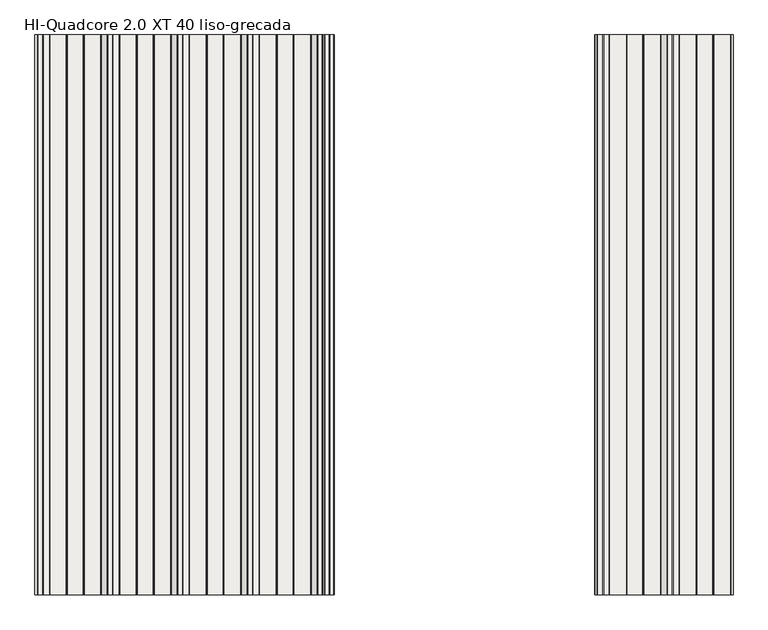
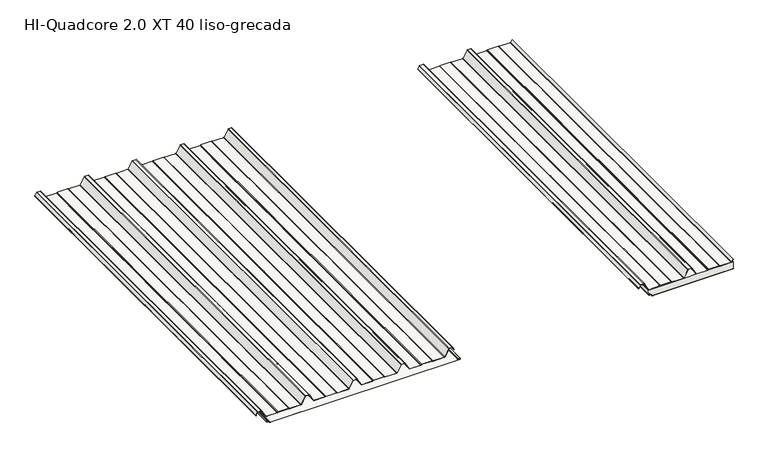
"""IFC4 building model written with IfcOpenShell, lengths in millimetres: slab geometry, HI_QuadCore2.0XT-XT DUAL : HI-Quadcore 2.0 XT 40 liso-grecada."""

from ifc_helpers import new_model, si_unit, point, frame, frame_2d, origin, place, context, project, spatial, polyline, circle_curve, trimmed, segment, composite_curve, outline, extrude, source, transform, mapped, element, save
from ifc_brep_helpers import plane_surface, cylinder_surface, revolved_surface, advanced_brep


def hi_quadcore_2_0_xt_40_liso_grecada_7d9000d5(model_context):
    return source(origin(), model_context, "Body", "SolidModel", [
        extrude(outline(composite_curve([segment(polyline([(78.1649405, 2138.5141429), (63.6579587, 2130.3539656)]), True, "CONTINUOUS"), segment(trimmed(circle_curve(frame_2d((63.0451321, 2131.443435)), 1.25), [point((63.6579587, 2130.3539656))], [point((62.689225, 2132.6416963))], False, "CARTESIAN"), True, "CONTINUOUS"), segment(polyline([(62.689225, 2132.6416963), (65.7359115, 2133.437141), (65.9380053, 2132.663088), (62.9074492, 2131.8718547)]), True, "CONTINUOUS"), segment(trimmed(circle_curve(frame_2d((63.0451321, 2131.443435)), 0.45), [point((62.9074492, 2131.8718547))], [point((63.2657497, 2131.051226))], True, "CARTESIAN"), True, "CONTINUOUS"), segment(polyline([(63.2657497, 2131.051226), (77.7727315, 2139.2114033)]), True, "CONTINUOUS"), segment(trimmed(circle_curve(frame_2d((76.4, 2141.6518148)), 2.8), [point((77.7727315, 2139.2114033))], [point((79.2, 2141.6518148))], True, "CARTESIAN"), True, "CONTINUOUS"), segment(polyline([(79.2, 2141.6518148), (79.2, 2158.9311117)]), True, "CONTINUOUS"), segment(trimmed(circle_curve(frame_2d((76.4, 2158.9311117)), 2.8), [point((79.2, 2158.9311117))], [point((77.5457267, 2161.4859719))], True, "CARTESIAN"), True, "CONTINUOUS"), segment(polyline([(77.5457267, 2161.4859719), (41.2048889, 2181.3052775)]), True, "CONTINUOUS"), segment(trimmed(circle_curve(frame_2d((43.0, 2184.6545425)), 3.8), [point((41.2048889, 2181.3052775))], [point((39.2, 2184.6545425))], False, "CARTESIAN"), True, "CONTINUOUS"), segment(polyline([(39.2, 2184.6545425), (39.2, 2242.4489557)]), True, "CONTINUOUS"), segment(trimmed(circle_curve(frame_2d((43.0, 2242.4489557)), 3.8), [point((39.2, 2242.4489557))], [point((39.6973596, 2244.328468))], False, "CARTESIAN"), True, "CONTINUOUS"), segment(polyline([(39.6973596, 2244.328468), (40.912055, 2246.4629056)]), True, "CONTINUOUS"), segment(trimmed(circle_curve(frame_2d((39.0, 2247.5510443)), 2.2), [point((40.912055, 2246.4629056))], [point((41.2, 2247.5510443))], True, "CARTESIAN"), True, "CONTINUOUS"), segment(polyline([(41.2, 2247.5510443), (41.2, 2302.4489557)]), True, "CONTINUOUS"), segment(trimmed(circle_curve(frame_2d((39.0, 2302.4489557)), 2.2), [point((41.2, 2302.4489557))], [point((40.912055, 2303.5370944))], True, "CARTESIAN"), True, "CONTINUOUS"), segment(polyline([(40.912055, 2303.5370944), (39.6973596, 2305.671532)]), True, "CONTINUOUS"), segment(trimmed(circle_curve(frame_2d((43.0, 2307.5510443)), 3.8), [point((39.6973596, 2305.671532))], [point((39.2, 2307.5510443))], False, "CARTESIAN"), True, "CONTINUOUS"), segment(polyline([(39.2, 2307.5510443), (39.2, 2365.7454575)]), True, "CONTINUOUS"), segment(trimmed(circle_curve(frame_2d((43.0, 2365.7454575)), 3.8), [point((39.2, 2365.7454575))], [point((41.1370073, 2369.0574446))], False, "CARTESIAN"), True, "CONTINUOUS"), segment(polyline([(41.1370073, 2369.0574446), (78.0785747, 2389.8370763)]), True, "CONTINUOUS"), segment(trimmed(circle_curve(frame_2d((77.0, 2391.7545425)), 2.2), [point((78.0785747, 2389.8370763))], [point((79.2, 2391.7545425))], True, "CARTESIAN"), True, "CONTINUOUS"), segment(polyline([(79.2, 2391.7545425), (79.2, 2408.2454575)]), True, "CONTINUOUS"), segment(trimmed(circle_curve(frame_2d((77.0, 2408.2454575)), 2.2), [point((79.2, 2408.2454575))], [point((78.0785747, 2410.1629237))], True, "CARTESIAN"), True, "CONTINUOUS"), segment(polyline([(78.0785747, 2410.1629237), (41.1370073, 2430.9425554)]), True, "CONTINUOUS"), segment(trimmed(circle_curve(frame_2d((43.0, 2434.2545425)), 3.8), [point((41.1370073, 2430.9425554))], [point((39.2, 2434.2545425))], False, "CARTESIAN"), True, "CONTINUOUS"), segment(polyline([(39.2, 2434.2545425), (39.2, 2492.4489557)]), True, "CONTINUOUS"), segment(trimmed(circle_curve(frame_2d((43.0, 2492.4489557)), 3.8), [point((39.2, 2492.4489557))], [point((39.6973596, 2494.328468))], False, "CARTESIAN"), True, "CONTINUOUS"), segment(polyline([(39.6973596, 2494.328468), (40.912055, 2496.4629056)]), True, "CONTINUOUS"), segment(trimmed(circle_curve(frame_2d((39.0, 2497.5510443)), 2.2), [point((40.912055, 2496.4629056))], [point((41.2, 2497.5510443))], True, "CARTESIAN"), True, "CONTINUOUS"), segment(polyline([(41.2, 2497.5510443), (41.2, 2552.4489557)]), True, "CONTINUOUS"), segment(trimmed(circle_curve(frame_2d((39.0, 2552.4489557)), 2.2), [point((41.2, 2552.4489557))], [point((40.912055, 2553.5370944))], True, "CARTESIAN"), True, "CONTINUOUS"), segment(polyline([(40.912055, 2553.5370944), (39.6973596, 2555.671532)]), True, "CONTINUOUS"), segment(trimmed(circle_curve(frame_2d((43.0, 2557.5510443)), 3.8), [point((39.6973596, 2555.671532))], [point((39.2, 2557.5510443))], False, "CARTESIAN"), True, "CONTINUOUS"), segment(polyline([(39.2, 2557.5510443), (39.2, 2615.7454575)]), True, "CONTINUOUS"), segment(trimmed(circle_curve(frame_2d((43.0, 2615.7454575)), 3.8), [point((39.2, 2615.7454575))], [point((41.1370073, 2619.0574446))], False, "CARTESIAN"), True, "CONTINUOUS"), segment(polyline([(41.1370073, 2619.0574446), (51.5197374, 2624.8977303), (53.1515205, 2624.8977303), (41.5292163, 2618.3601842)]), True, "CONTINUOUS"), segment(trimmed(circle_curve(frame_2d((43.0, 2615.7454575)), 3.0), [point((41.5292163, 2618.3601842))], [point((40.0, 2615.7454575))], True, "CARTESIAN"), True, "CONTINUOUS"), segment(polyline([(40.0, 2615.7454575), (40.0, 2557.5510443)]), True, "CONTINUOUS"), segment(trimmed(circle_curve(frame_2d((43.0, 2557.5510443)), 3.0), [point((40.0, 2557.5510443))], [point((40.3926523, 2556.0672188))], True, "CARTESIAN"), True, "CONTINUOUS"), segment(polyline([(40.3926523, 2556.0672188), (41.6073477, 2553.9327812)]), True, "CONTINUOUS"), segment(trimmed(circle_curve(frame_2d((39.0, 2552.4489557)), 3.0), [point((41.6073477, 2553.9327812))], [point((42.0, 2552.4489557))], False, "CARTESIAN"), True, "CONTINUOUS"), segment(polyline([(42.0, 2552.4489557), (42.0, 2497.5510443)]), True, "CONTINUOUS"), segment(trimmed(circle_curve(frame_2d((39.0, 2497.5510443)), 3.0), [point((42.0, 2497.5510443))], [point((41.6073477, 2496.0672188))], False, "CARTESIAN"), True, "CONTINUOUS"), segment(polyline([(41.6073477, 2496.0672188), (40.3926523, 2493.9327812)]), True, "CONTINUOUS"), segment(trimmed(circle_curve(frame_2d((43.0, 2492.4489557)), 3.0), [point((40.3926523, 2493.9327812))], [point((40.0, 2492.4489557))], True, "CARTESIAN"), True, "CONTINUOUS"), segment(polyline([(40.0, 2492.4489557), (40.0, 2434.2545425)]), True, "CONTINUOUS"), segment(trimmed(circle_curve(frame_2d((43.0, 2434.2545425)), 3.0), [point((40.0, 2434.2545425))], [point((41.5292163, 2431.6398158))], True, "CARTESIAN"), True, "CONTINUOUS"), segment(polyline([(41.5292163, 2431.6398158), (78.4707837, 2410.8601842)]), True, "CONTINUOUS"), segment(trimmed(circle_curve(frame_2d((77.0, 2408.2454575)), 3.0), [point((78.4707837, 2410.8601842))], [point((80.0, 2408.2454575))], False, "CARTESIAN"), True, "CONTINUOUS"), segment(polyline([(80.0, 2408.2454575), (80.0, 2391.7545425)]), True, "CONTINUOUS"), segment(trimmed(circle_curve(frame_2d((77.0, 2391.7545425)), 3.0), [point((80.0, 2391.7545425))], [point((78.4707837, 2389.1398158))], False, "CARTESIAN"), True, "CONTINUOUS"), segment(polyline([(78.4707837, 2389.1398158), (41.5292163, 2368.3601842)]), True, "CONTINUOUS"), segment(trimmed(circle_curve(frame_2d((43.0, 2365.7454575)), 3.0), [point((41.5292163, 2368.3601842))], [point((40.0, 2365.7454575))], True, "CARTESIAN"), True, "CONTINUOUS"), segment(polyline([(40.0, 2365.7454575), (40.0, 2307.5510443)]), True, "CONTINUOUS"), segment(trimmed(circle_curve(frame_2d((43.0, 2307.5510443)), 3.0), [point((40.0, 2307.5510443))], [point((40.3926523, 2306.0672188))], True, "CARTESIAN"), True, "CONTINUOUS"), segment(polyline([(40.3926523, 2306.0672188), (41.6073477, 2303.9327812)]), True, "CONTINUOUS"), segment(trimmed(circle_curve(frame_2d((39.0, 2302.4489557)), 3.0), [point((41.6073477, 2303.9327812))], [point((42.0, 2302.4489557))], False, "CARTESIAN"), True, "CONTINUOUS"), segment(polyline([(42.0, 2302.4489557), (42.0, 2247.5510443)]), True, "CONTINUOUS"), segment(trimmed(circle_curve(frame_2d((39.0, 2247.5510443)), 3.0), [point((42.0, 2247.5510443))], [point((41.6073477, 2246.0672188))], False, "CARTESIAN"), True, "CONTINUOUS"), segment(polyline([(41.6073477, 2246.0672188), (40.3926523, 2243.9327812)]), True, "CONTINUOUS"), segment(trimmed(circle_curve(frame_2d((43.0, 2242.4489557)), 3.0), [point((40.3926523, 2243.9327812))], [point((40.0, 2242.4489557))], True, "CARTESIAN"), True, "CONTINUOUS"), segment(polyline([(40.0, 2242.4489557), (40.0, 2184.6545425)]), True, "CONTINUOUS"), segment(trimmed(circle_curve(frame_2d((43.0, 2184.6545425)), 3.0), [point((40.0, 2184.6545425))], [point((41.5852209, 2182.0090935))], True, "CARTESIAN"), True, "CONTINUOUS"), segment(polyline([(41.5852209, 2182.0090935), (77.9031732, 2162.2022691)]), True, "CONTINUOUS"), segment(trimmed(circle_curve(frame_2d((76.4, 2158.9311117)), 3.6), [point((77.9031732, 2162.2022691))], [point((80.0, 2158.9311117))], False, "CARTESIAN"), True, "CONTINUOUS"), segment(polyline([(80.0, 2158.9311117), (80.0, 2141.6518148)]), True, "CONTINUOUS"), segment(trimmed(circle_curve(frame_2d((76.4, 2141.6518148)), 3.6), [point((80.0, 2141.6518148))], [point((78.1649405, 2138.5141429))], False, "CARTESIAN"), True, "CONTINUOUS")], self_intersect=False)), frame((0.0, 0.0, 0.0), z_axis=(0.0, 1.0, 0.0), x_axis=(0.0, 0.0, 1.0)), (0.0, 0.0, 1.0), 2000.0),
        extrude(outline(composite_curve([segment(trimmed(circle_curve(frame_2d((11.9759207, 2187.8456418)), 2.0), [point((13.390095, 2186.4313891))], [point((11.9758652, 2185.8456418))], False, "CARTESIAN"), True, "CONTINUOUS"), segment(polyline([(11.9758652, 2185.8456418), (8.333684, 2185.8457428)]), True, "CONTINUOUS"), segment(trimmed(circle_curve(frame_2d((8.3337394, 2187.8457428)), 2.0), [point((8.333684, 2185.8457428))], [point((6.3390802, 2187.6996787))], False, "CARTESIAN"), True, "CONTINUOUS"), segment(polyline([(6.3390802, 2187.6996787), (5.5769243, 2198.1077232)]), True, "CONTINUOUS"), segment(trimmed(circle_curve(frame_2d((3.5874027, 2197.9032632)), 2.0), [point((5.5769243, 2198.1077232))], [point((3.5874582, 2199.9032632))], True, "CARTESIAN"), True, "CONTINUOUS"), segment(polyline([(3.5874582, 2199.9032632), (1.9861383, 2199.9033076)]), True, "CONTINUOUS"), segment(trimmed(circle_curve(frame_2d((1.9861938, 2201.9033076)), 2.0), [point((1.9861383, 2199.9033076))], [point((-0.0138062, 2201.903363))], False, "CARTESIAN"), True, "CONTINUOUS"), segment(polyline([(-0.0138062, 2201.903363), (-0.0020796, 2624.8977303), (0.7979204, 2624.8977303), (0.7861938, 2201.9033408)]), True, "CONTINUOUS"), segment(trimmed(circle_curve(frame_2d((1.9861938, 2201.9033076)), 1.2), [point((0.7861938, 2201.9033408))], [point((1.9861605, 2200.7033076))], True, "CARTESIAN"), True, "CONTINUOUS"), segment(polyline([(1.9861605, 2200.7033076), (3.5874804, 2200.7032632)]), True, "CONTINUOUS"), segment(trimmed(circle_curve(frame_2d((3.5874027, 2197.9032632)), 2.8), [point((3.5874804, 2200.7032632))], [point((6.3740035, 2198.1768616))], False, "CARTESIAN"), True, "CONTINUOUS"), segment(polyline([(6.3740035, 2198.1768616), (7.1369439, 2187.7581044)]), True, "CONTINUOUS"), segment(trimmed(circle_curve(frame_2d((8.3337394, 2187.8457428)), 1.2), [point((7.1369439, 2187.7581044))], [point((8.3337062, 2186.6457428))], True, "CARTESIAN"), True, "CONTINUOUS"), segment(polyline([(8.3337062, 2186.6457428), (11.9758874, 2186.6456418)]), True, "CONTINUOUS"), segment(trimmed(circle_curve(frame_2d((11.9759207, 2187.8456418)), 1.2), [point((11.9758874, 2186.6456418))], [point((12.8244253, 2186.9970902))], True, "CARTESIAN"), True, "CONTINUOUS"), segment(polyline([(12.8244253, 2186.9970902), (14.9306702, 2189.1032183), (15.4963556, 2188.5375329), (13.390095, 2186.4313891)]), True, "CONTINUOUS")], self_intersect=False)), frame((0.0, 0.0, 0.0), z_axis=(0.0, 1.0, 0.0), x_axis=(0.0, 0.0, 1.0)), (0.0, 0.0, 1.0), 2000.0),
        extrude(outline(composite_curve([segment(polyline([(14.9306702, 2189.1032183), (12.8244253, 2186.9970902)]), True, "CONTINUOUS"), segment(trimmed(circle_curve(frame_2d((11.9759207, 2187.8456418)), 1.2), [point((12.8244253, 2186.9970902))], [point((11.9758874, 2186.6456418))], False, "CARTESIAN"), True, "CONTINUOUS"), segment(polyline([(11.9758874, 2186.6456418), (8.3337062, 2186.6457428)]), True, "CONTINUOUS"), segment(trimmed(circle_curve(frame_2d((8.3337394, 2187.8457428)), 1.2), [point((8.3337062, 2186.6457428))], [point((7.1369439, 2187.7581044))], False, "CARTESIAN"), True, "CONTINUOUS"), segment(polyline([(7.1369439, 2187.7581044), (6.3740035, 2198.1768616)]), True, "CONTINUOUS"), segment(trimmed(circle_curve(frame_2d((3.5874027, 2197.9032632)), 2.8), [point((6.3740035, 2198.1768616))], [point((3.5874804, 2200.7032632))], True, "CARTESIAN"), True, "CONTINUOUS"), segment(polyline([(3.5874804, 2200.7032632), (1.9861605, 2200.7033076)]), True, "CONTINUOUS"), segment(trimmed(circle_curve(frame_2d((1.9861938, 2201.9033076)), 1.2), [point((1.9861605, 2200.7033076))], [point((0.7861938, 2201.9033408))], False, "CARTESIAN"), True, "CONTINUOUS"), segment(polyline([(0.7861938, 2201.9033408), (0.7979204, 2624.8977303), (38.0, 2624.8977303), (38.0, 2181.60134), (7.0308356, 2184.4622222), (7.2414508, 2185.8457731), (11.9758652, 2185.8456418)]), True, "CONTINUOUS"), segment(trimmed(circle_curve(frame_2d((11.9759207, 2187.8456418)), 2.0), [point((11.9758652, 2185.8456418))], [point((13.390095, 2186.4313891))], True, "CARTESIAN"), True, "CONTINUOUS"), segment(polyline([(13.390095, 2186.4313891), (15.4963556, 2188.5375329), (14.9306702, 2189.1032183)]), True, "CONTINUOUS")], self_intersect=False)), frame((0.0, 0.0, 0.0), z_axis=(0.0, 1.0, 0.0), x_axis=(0.0, 0.0, 1.0)), (0.0, 0.0, 1.0), 2000.0),
        advanced_brep(
        [(186.4313891, 0.0, 13.3795578), (185.8456418, 0.0, 11.9654043), (185.8456037, 0.0, 8.2995811), (187.6996787, 0.0, 6.328543), (198.1077232, 0.0, 5.5663871), (199.9032632, 0.0, 3.5769209), (199.9033076, 0.0, 1.9756011), (201.903363, 0.0, -0.0243435), (1197.9162803, 0.0, 0.003269), (1199.9046779, 0.0, 2.0032908), (1199.904653, 0.0, 2.9012893), (1198.0077486, 0.0, 4.8985749), (1186.1928118, 0.0, 5.7933732), (1184.3438482, 0.0, 7.7876066), (1184.3437386, 0.0, 11.7402379), (1183.757913, 0.0, 13.1544352), (1182.3436602, 0.0, 14.5686095), (1181.7779748, 0.0, 14.0029241), (1183.1922433, 0.0, 12.5887341), (1183.5437386, 0.0, 11.7402157), (1183.5438482, 0.0, 7.7875844), (1186.1323972, 0.0, 4.9956577), (1197.958132, 0.0, 4.1000416), (1199.104653, 0.0, 2.9012672), (1199.1046779, 0.0, 2.0032686), (1197.9136554, 0.0, 0.8032689), (201.9033408, 0.0, 0.7756565), (200.7033076, 0.0, 1.9756233), (200.7032632, 0.0, 3.5769431), (198.1768616, 0.0, 6.3634663), (187.7581044, 0.0, 7.1264067), (186.6457428, 0.0, 8.3231689), (186.6456418, 0.0, 11.965396), (186.9970902, 0.0, 12.8138881), (189.1032183, 0.0, 14.920133), (188.5375329, 0.0, 15.4858184), (186.4313891, 2000.0, 13.3795578), (188.5375329, 2000.0, 15.4858184), (189.1032183, 2000.0, 14.920133), (186.9970902, 2000.0, 12.8138881), (186.6456418, 2000.0, 11.965396), (186.6456037, 2000.0, 8.2995728), (187.7581044, 2000.0, 7.1264067), (198.1768616, 2000.0, 6.3634663), (200.7032632, 2000.0, 3.5769431), (200.7033076, 2000.0, 1.9756233), (201.9033408, 2000.0, 0.7756565), (1197.9136554, 2000.0, 0.8032689), (1199.1046779, 2000.0, 2.0032686), (1199.104653, 2000.0, 2.9012672), (1197.958132, 2000.0, 4.1000416), (1186.1323972, 2000.0, 4.9956577), (1183.5438482, 2000.0, 7.7875844), (1183.5437386, 2000.0, 11.7402157), (1183.1922433, 2000.0, 12.5887341), (1181.7779748, 2000.0, 14.0029241), (1182.3436602, 2000.0, 14.5686095), (1183.757913, 2000.0, 13.1544352), (1184.3437386, 2000.0, 11.7402379), (1184.3438482, 2000.0, 7.7876066), (1186.1928118, 2000.0, 5.7933732), (1198.0077486, 2000.0, 4.8985749), (1199.904653, 2000.0, 2.9012893), (1199.9046779, 2000.0, 2.0032908), (1197.9162803, 2000.0, 0.003269), (201.903363, 2000.0, -0.0243435), (199.9033076, 2000.0, 1.9756011), (199.9032632, 2000.0, 3.5769209), (198.1077232, 2000.0, 5.5663871), (187.6996787, 2000.0, 6.328543), (185.8457428, 2000.0, 8.3231467), (185.8456418, 2000.0, 11.9654043)],
        [
            (0, 1, circle_curve(frame((187.8456418, 0.0, 11.9653834), z_axis=(0.0, -1.0, 0.0), x_axis=(1.0, 0.0, 0.0)), 2.0)),
            (1, 2),
            (2, 3, circle_curve(frame((187.8457428, 0.0, 8.3232022), z_axis=(0.0, -1.0, 0.0), x_axis=(1.0, 0.0, 0.0)), 2.0)),
            (3, 4),
            (4, 5, circle_curve(frame((197.9032632, 0.0, 3.5768655), z_axis=(0.0, 1.0, 0.0), x_axis=(1.0, 0.0, 0.0)), 2.0)),
            (5, 6),
            (6, 7, circle_curve(frame((201.9033076, 0.0, 1.9756565), z_axis=(0.0, -1.0, 0.0), x_axis=(1.0, 0.0, 0.0)), 2.0)),
            (7, 8),
            (8, 9, circle_curve(frame((1197.9046779, 0.0, 2.0032353), z_axis=(0.0, -1.0, 0.0), x_axis=(1.0, 0.0, 0.0)), 2.0)),
            (9, 10),
            (10, 11, circle_curve(frame((1197.904653, 0.0, 2.9012339), z_axis=(0.0, -1.0, 0.0), x_axis=(1.0, 0.0, 0.0)), 2.0)),
            (11, 12),
            (12, 13, circle_curve(frame((1186.3438482, 0.0, 7.7876621), z_axis=(0.0, 1.0, 0.0), x_axis=(1.0, 0.0, 0.0)), 2.0)),
            (13, 14),
            (14, 15, circle_curve(frame((1182.3437386, 0.0, 11.7401824), z_axis=(0.0, -1.0, 0.0), x_axis=(1.0, 0.0, 0.0)), 2.0)),
            (15, 16),
            (16, 17),
            (17, 18),
            (18, 19, circle_curve(frame((1182.3437386, 0.0, 11.7401824), z_axis=(0.0, 1.0, 0.0), x_axis=(1.0, 0.0, 0.0)), 1.2)),
            (19, 20),
            (20, 21, circle_curve(frame((1186.3438482, 0.0, 7.7876621), z_axis=(0.0, -1.0, 0.0), x_axis=(1.0, 0.0, 0.0)), 2.8)),
            (21, 22),
            (22, 23, circle_curve(frame((1197.904653, 0.0, 2.9012339), z_axis=(0.0, 1.0, 0.0), x_axis=(1.0, 0.0, 0.0)), 1.2)),
            (23, 24),
            (24, 25, circle_curve(frame((1197.9046779, 0.0, 2.0032353), z_axis=(0.0, 1.0, 0.0), x_axis=(1.0, 0.0, 0.0)), 1.2)),
            (25, 26),
            (26, 27, circle_curve(frame((201.9033076, 0.0, 1.9756565), z_axis=(0.0, 1.0, 0.0), x_axis=(1.0, 0.0, 0.0)), 1.2)),
            (27, 28),
            (28, 29, circle_curve(frame((197.9032632, 0.0, 3.5768655), z_axis=(0.0, -1.0, 0.0), x_axis=(1.0, 0.0, 0.0)), 2.8)),
            (29, 30),
            (30, 31, circle_curve(frame((187.8457428, 0.0, 8.3232022), z_axis=(0.0, 1.0, 0.0), x_axis=(1.0, 0.0, 0.0)), 1.2)),
            (31, 32),
            (32, 33, circle_curve(frame((187.8456418, 0.0, 11.9653834), z_axis=(0.0, 1.0, 0.0), x_axis=(1.0, 0.0, 0.0)), 1.2)),
            (33, 34),
            (34, 35),
            (35, 0),
            (36, 37),
            (37, 38),
            (38, 39),
            (39, 40, circle_curve(frame((187.8456418, 2000.0, 11.9653834), z_axis=(0.0, -1.0, 0.0), x_axis=(1.0, 0.0, 0.0)), 1.2)),
            (40, 41),
            (41, 42, circle_curve(frame((187.8457428, 2000.0, 8.3232022), z_axis=(0.0, -1.0, 0.0), x_axis=(1.0, 0.0, 0.0)), 1.2)),
            (42, 43),
            (43, 44, circle_curve(frame((197.9032632, 2000.0, 3.5768655), z_axis=(0.0, 1.0, 0.0), x_axis=(1.0, 0.0, 0.0)), 2.8)),
            (44, 45),
            (45, 46, circle_curve(frame((201.9033076, 2000.0, 1.9756565), z_axis=(0.0, -1.0, 0.0), x_axis=(1.0, 0.0, 0.0)), 1.2)),
            (46, 47),
            (47, 48, circle_curve(frame((1197.9046779, 2000.0, 2.0032353), z_axis=(0.0, -1.0, 0.0), x_axis=(1.0, 0.0, 0.0)), 1.2)),
            (48, 49),
            (49, 50, circle_curve(frame((1197.904653, 2000.0, 2.9012339), z_axis=(0.0, -1.0, 0.0), x_axis=(1.0, 0.0, 0.0)), 1.2)),
            (50, 51),
            (51, 52, circle_curve(frame((1186.3438482, 2000.0, 7.7876621), z_axis=(0.0, 1.0, 0.0), x_axis=(1.0, 0.0, 0.0)), 2.8)),
            (52, 53),
            (53, 54, circle_curve(frame((1182.3437386, 2000.0, 11.7401824), z_axis=(0.0, -1.0, 0.0), x_axis=(1.0, 0.0, 0.0)), 1.2)),
            (54, 55),
            (55, 56),
            (56, 57),
            (57, 58, circle_curve(frame((1182.3437386, 2000.0, 11.7401824), z_axis=(0.0, 1.0, 0.0), x_axis=(1.0, 0.0, 0.0)), 2.0)),
            (58, 59),
            (59, 60, circle_curve(frame((1186.3438482, 2000.0, 7.7876621), z_axis=(0.0, -1.0, 0.0), x_axis=(1.0, 0.0, 0.0)), 2.0)),
            (60, 61),
            (61, 62, circle_curve(frame((1197.904653, 2000.0, 2.9012339), z_axis=(0.0, 1.0, 0.0), x_axis=(1.0, 0.0, 0.0)), 2.0)),
            (62, 63),
            (63, 64, circle_curve(frame((1197.9046779, 2000.0, 2.0032353), z_axis=(0.0, 1.0, 0.0), x_axis=(1.0, 0.0, 0.0)), 2.0)),
            (64, 65),
            (65, 66, circle_curve(frame((201.9033076, 2000.0, 1.9756565), z_axis=(0.0, 1.0, 0.0), x_axis=(1.0, 0.0, 0.0)), 2.0)),
            (66, 67),
            (67, 68, circle_curve(frame((197.9032632, 2000.0, 3.5768655), z_axis=(0.0, -1.0, 0.0), x_axis=(1.0, 0.0, 0.0)), 2.0)),
            (68, 69),
            (69, 70, circle_curve(frame((187.8457428, 2000.0, 8.3232022), z_axis=(0.0, 1.0, 0.0), x_axis=(1.0, 0.0, 0.0)), 2.0)),
            (70, 71),
            (71, 36, circle_curve(frame((187.8456418, 2000.0, 11.9653834), z_axis=(0.0, 1.0, 0.0), x_axis=(1.0, 0.0, 0.0)), 2.0)),
            (0, 36),
            (71, 1),
            (70, 2),
            (69, 3),
            (68, 4),
            (67, 5),
            (66, 6),
            (65, 7),
            (64, 8),
            (63, 9),
            (62, 10),
            (61, 11),
            (60, 12),
            (59, 13),
            (58, 14),
            (57, 15),
            (56, 16),
            (55, 17),
            (54, 18),
            (53, 19),
            (52, 20),
            (51, 21),
            (50, 22),
            (49, 23),
            (48, 24),
            (47, 25),
            (46, 26),
            (45, 27),
            (44, 28),
            (43, 29),
            (42, 30),
            (41, 31),
            (40, 32),
            (39, 33),
            (38, 34),
            (37, 35),
        ],
        [
            plane_surface(frame((189.8456418, 0.0, 11.9653834), z_axis=(0.0, -1.0, 0.0), x_axis=(0.0, 0.0, 1.0))),
            plane_surface(frame((189.8456418, 2000.0, 11.9653834), z_axis=(0.0, 1.0, 0.0), x_axis=(0.0, 0.0, -1.0))),
            cylinder_surface(frame((187.8456418, 2000.0, 11.9653834), z_axis=(0.0, -1.0, 0.0), x_axis=(1.0, 0.0, 0.0)), 2.0),
            plane_surface(frame((185.8456418, 0.0, 11.9654043), z_axis=(-0.9999999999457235, 0.0, 1.041887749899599e-05), x_axis=(0.0, 1.0, 0.0))),
            cylinder_surface(frame((187.8457428, 2000.0, 8.3232022), z_axis=(0.0, -1.0, 0.0), x_axis=(1.0, 0.0, 0.0)), 2.0),
            plane_surface(frame((187.6996787, 0.0, 6.328543), z_axis=(-0.07303203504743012, 0.0, -0.9973295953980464), x_axis=(0.0, 1.0, 0.0))),
            revolved_surface(polyline([(199.9032632, 2000.0, 3.5768655), (199.9032632, 0.0, 3.5768655)]), (197.9032632, 2000.0, 3.5768655), (0.0, 1.0, 0.0)),
            plane_surface(frame((199.9032632, 0.0, 3.5769209), z_axis=(-0.9999999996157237, 0.0, -2.7722781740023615e-05), x_axis=(0.0, 1.0, 0.0))),
            cylinder_surface(frame((201.9033076, 2000.0, 1.9756565), z_axis=(0.0, -1.0, 0.0), x_axis=(1.0, 0.0, 0.0)), 2.0),
            plane_surface(frame((201.903363, 0.0, -0.0243435), z_axis=(2.772298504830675e-05, 0.0, -0.9999999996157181), x_axis=(0.0, 1.0, 0.0))),
            cylinder_surface(frame((1197.9046779, 2000.0, 2.0032353), z_axis=(0.0, -1.0, 0.0), x_axis=(1.0, 0.0, 0.0)), 2.0),
            plane_surface(frame((1199.9046779, 0.0, 2.0032908), z_axis=(0.9999999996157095, 0.0, 2.7723295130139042e-05), x_axis=(0.0, 1.0, 0.0))),
            cylinder_surface(frame((1197.904653, 2000.0, 2.9012339), z_axis=(0.0, -1.0, 0.0), x_axis=(1.0, 0.0, 0.0)), 2.0),
            plane_surface(frame((1198.0077486, 0.0, 4.8985749), z_axis=(0.07551822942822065, 0.0, 0.9971444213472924), x_axis=(0.0, 1.0, 0.0))),
            revolved_surface(polyline([(1188.3438482, 2000.0, 7.7876621), (1188.3438482, 0.0, 7.7876621)]), (1186.3438482, 2000.0, 7.7876621), (0.0, 1.0, 0.0)),
            plane_surface(frame((1184.3438482, 0.0, 7.7876066), z_axis=(0.9999999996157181, 0.0, 2.7722984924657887e-05), x_axis=(0.0, 1.0, 0.0))),
            cylinder_surface(frame((1182.3437386, 2000.0, 11.7401824), z_axis=(0.0, -1.0, 0.0), x_axis=(1.0, 0.0, 0.0)), 2.0),
            plane_surface(frame((1183.757913, 0.0, 13.1544352), z_axis=(0.7070871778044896, 0.0, 0.7071263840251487), x_axis=(0.0, 1.0, 0.0))),
            plane_surface(frame((1182.3436602, 0.0, 14.5686095), z_axis=(-0.7071067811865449, 0.0, 0.7071067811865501), x_axis=(0.0, 1.0, 0.0))),
            plane_surface(frame((1181.7779748, 0.0, 14.0029241), z_axis=(-0.7070871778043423, 0.0, -0.707126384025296), x_axis=(0.0, 1.0, 0.0))),
            revolved_surface(polyline([(1183.5437386, 2000.0, 11.7401824), (1183.5437386, 0.0, 11.7401824)]), (1182.3437386, 2000.0, 11.7401824), (0.0, 1.0, 0.0)),
            plane_surface(frame((1183.5437386, 0.0, 11.7402157), z_axis=(-0.9999999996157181, 0.0, -2.7722985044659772e-05), x_axis=(0.0, 1.0, 0.0))),
            cylinder_surface(frame((1186.3438482, 2000.0, 7.7876621), z_axis=(0.0, -1.0, 0.0), x_axis=(1.0, 0.0, 0.0)), 2.8),
            plane_surface(frame((1186.1323972, 0.0, 4.9956577), z_axis=(-0.07551822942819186, 0.0, -0.9971444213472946), x_axis=(0.0, 1.0, 0.0))),
            revolved_surface(polyline([(1199.104653, 2000.0, 2.9012339), (1199.104653, 0.0, 2.9012339)]), (1197.904653, 2000.0, 2.9012339), (0.0, 1.0, 0.0)),
            plane_surface(frame((1199.104653, 0.0, 2.9012672), z_axis=(-0.9999999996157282, 0.0, -2.7722622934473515e-05), x_axis=(0.0, 1.0, 0.0))),
            revolved_surface(polyline([(1199.1046779, 2000.0, 2.0032353), (1199.1046779, 0.0, 2.0032353)]), (1197.9046779, 2000.0, 2.0032353), (0.0, 1.0, 0.0)),
            plane_surface(frame((1197.9136554, 0.0, 0.8032689), z_axis=(-2.7722985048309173e-05, 0.0, 0.9999999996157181), x_axis=(0.0, 1.0, 0.0))),
            revolved_surface(polyline([(203.1033076, 2000.0, 1.9756565), (203.1033076, 0.0, 1.9756565)]), (201.9033076, 2000.0, 1.9756565), (0.0, 1.0, 0.0)),
            plane_surface(frame((200.7033076, 0.0, 1.9756233), z_axis=(0.9999999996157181, 0.0, 2.7722983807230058e-05), x_axis=(0.0, 1.0, 0.0))),
            cylinder_surface(frame((197.9032632, 2000.0, 3.5768655), z_axis=(0.0, -1.0, 0.0), x_axis=(1.0, 0.0, 0.0)), 2.8),
            plane_surface(frame((198.1768616, 0.0, 6.3634663), z_axis=(0.0730320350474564, 0.0, 0.9973295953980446), x_axis=(0.0, 1.0, 0.0))),
            revolved_surface(polyline([(189.0457428, 2000.0, 8.3232022), (189.0457428, 0.0, 8.3232022)]), (187.8457428, 2000.0, 8.3232022), (0.0, 1.0, 0.0)),
            plane_surface(frame((186.6456037, 0.0, 8.2995728), z_axis=(0.9999999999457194, 0.0, -1.0419274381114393e-05), x_axis=(0.0, 1.0, 0.0))),
            revolved_surface(polyline([(189.0456418, 2000.0, 11.9653834), (189.0456418, 0.0, 11.9653834)]), (187.8456418, 2000.0, 11.9653834), (0.0, 1.0, 0.0)),
            plane_surface(frame((186.9970902, 0.0, 12.8138881), z_axis=(0.7071263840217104, 0.0, -0.7070871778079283), x_axis=(0.0, 1.0, 0.0))),
            plane_surface(frame((189.1032183, 0.0, 14.920133), z_axis=(0.7071067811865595, 0.0, 0.7071067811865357), x_axis=(0.0, 1.0, 0.0))),
            plane_surface(frame((188.5375329, 0.0, 15.4858184), z_axis=(-0.7071263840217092, 0.0, 0.7070871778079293), x_axis=(0.0, 1.0, 0.0))),
        ],
        [
            (0, [[1, 2, 3, 4, 5, 6, 7, 8, 9, 10, 11, 12, 13, 14, 15, 16, 17, 18, 19, 20, 21, 22, 23, 24, 25, 26, 27, 28, 29, 30, 31, 32, 33, 34, 35, 36]]),
            (1, [[37, 38, 39, 40, 41, 42, 43, 44, 45, 46, 47, 48, 49, 50, 51, 52, 53, 54, 55, 56, 57, 58, 59, 60, 61, 62, 63, 64, 65, 66, 67, 68, 69, 70, 71, 72]]),
            (2, [[-1, 73, -72, 74]]),
            (3, [[-2, -74, -71, 75]]),
            (4, [[-3, -75, -70, 76]]),
            (5, [[-4, -76, -69, 77]]),
            (6, [[-5, -77, -68, 78]]),
            (7, [[-6, -78, -67, 79]]),
            (8, [[-7, -79, -66, 80]]),
            (9, [[-8, -80, -65, 81]]),
            (10, [[-9, -81, -64, 82]]),
            (11, [[-10, -82, -63, 83]]),
            (12, [[-11, -83, -62, 84]]),
            (13, [[-12, -84, -61, 85]]),
            (14, [[-13, -85, -60, 86]]),
            (15, [[-14, -86, -59, 87]]),
            (16, [[-15, -87, -58, 88]]),
            (17, [[-16, -88, -57, 89]]),
            (18, [[-17, -89, -56, 90]]),
            (19, [[-18, -90, -55, 91]]),
            (20, [[-19, -91, -54, 92]]),
            (21, [[-20, -92, -53, 93]]),
            (22, [[-21, -93, -52, 94]]),
            (23, [[-22, -94, -51, 95]]),
            (24, [[-23, -95, -50, 96]]),
            (25, [[-24, -96, -49, 97]]),
            (26, [[-25, -97, -48, 98]]),
            (27, [[-26, -98, -47, 99]]),
            (28, [[-27, -99, -46, 100]]),
            (29, [[-28, -100, -45, 101]]),
            (30, [[-29, -101, -44, 102]]),
            (31, [[-30, -102, -43, 103]]),
            (32, [[-31, -103, -42, 104]]),
            (33, [[-32, -104, -41, 105]]),
            (34, [[-33, -105, -40, 106]]),
            (35, [[-34, -106, -39, 107]]),
            (36, [[-35, -107, -38, 108]]),
            (37, [[-36, -108, -37, -73]]),
        ],
    ),
        extrude(outline(composite_curve([segment(polyline([(78.1649405, 138.5141429), (63.6579587, 130.3539656)]), True, "CONTINUOUS"), segment(trimmed(circle_curve(frame_2d((63.0451321, 131.443435)), 1.25), [point((63.6579587, 130.3539656))], [point((62.689225, 132.6416963))], False, "CARTESIAN"), True, "CONTINUOUS"), segment(polyline([(62.689225, 132.6416963), (65.7359115, 133.437141), (65.9380053, 132.663088), (62.9074492, 131.8718547)]), True, "CONTINUOUS"), segment(trimmed(circle_curve(frame_2d((63.0451321, 131.443435)), 0.45), [point((62.9074492, 131.8718547))], [point((63.2657497, 131.051226))], True, "CARTESIAN"), True, "CONTINUOUS"), segment(polyline([(63.2657497, 131.051226), (77.7727315, 139.2114033)]), True, "CONTINUOUS"), segment(trimmed(circle_curve(frame_2d((76.4, 141.6518148)), 2.8), [point((77.7727315, 139.2114033))], [point((79.2, 141.6518148))], True, "CARTESIAN"), True, "CONTINUOUS"), segment(polyline([(79.2, 141.6518148), (79.2, 158.9311117)]), True, "CONTINUOUS"), segment(trimmed(circle_curve(frame_2d((76.4, 158.9311117)), 2.8), [point((79.2, 158.9311117))], [point((77.5457267, 161.4859719))], True, "CARTESIAN"), True, "CONTINUOUS"), segment(polyline([(77.5457267, 161.4859719), (41.2048889, 181.3052775)]), True, "CONTINUOUS"), segment(trimmed(circle_curve(frame_2d((43.0, 184.6545425)), 3.8), [point((41.2048889, 181.3052775))], [point((39.2, 184.6545425))], False, "CARTESIAN"), True, "CONTINUOUS"), segment(polyline([(39.2, 184.6545425), (39.2, 242.4489557)]), True, "CONTINUOUS"), segment(trimmed(circle_curve(frame_2d((43.0, 242.4489557)), 3.8), [point((39.2, 242.4489557))], [point((39.6973596, 244.328468))], False, "CARTESIAN"), True, "CONTINUOUS"), segment(polyline([(39.6973596, 244.328468), (40.912055, 246.4629056)]), True, "CONTINUOUS"), segment(trimmed(circle_curve(frame_2d((39.0, 247.5510443)), 2.2), [point((40.912055, 246.4629056))], [point((41.2, 247.5510443))], True, "CARTESIAN"), True, "CONTINUOUS"), segment(polyline([(41.2, 247.5510443), (41.2, 302.4489557)]), True, "CONTINUOUS"), segment(trimmed(circle_curve(frame_2d((39.0, 302.4489557)), 2.2), [point((41.2, 302.4489557))], [point((40.912055, 303.5370944))], True, "CARTESIAN"), True, "CONTINUOUS"), segment(polyline([(40.912055, 303.5370944), (39.6973596, 305.671532)]), True, "CONTINUOUS"), segment(trimmed(circle_curve(frame_2d((43.0, 307.5510443)), 3.8), [point((39.6973596, 305.671532))], [point((39.2, 307.5510443))], False, "CARTESIAN"), True, "CONTINUOUS"), segment(polyline([(39.2, 307.5510443), (39.2, 365.7454575)]), True, "CONTINUOUS"), segment(trimmed(circle_curve(frame_2d((43.0, 365.7454575)), 3.8), [point((39.2, 365.7454575))], [point((41.1370073, 369.0574446))], False, "CARTESIAN"), True, "CONTINUOUS"), segment(polyline([(41.1370073, 369.0574446), (78.0785747, 389.8370763)]), True, "CONTINUOUS"), segment(trimmed(circle_curve(frame_2d((77.0, 391.7545425)), 2.2), [point((78.0785747, 389.8370763))], [point((79.2, 391.7545425))], True, "CARTESIAN"), True, "CONTINUOUS"), segment(polyline([(79.2, 391.7545425), (79.2, 408.2454575)]), True, "CONTINUOUS"), segment(trimmed(circle_curve(frame_2d((77.0, 408.2454575)), 2.2), [point((79.2, 408.2454575))], [point((78.0785747, 410.1629237))], True, "CARTESIAN"), True, "CONTINUOUS"), segment(polyline([(78.0785747, 410.1629237), (41.1370073, 430.9425554)]), True, "CONTINUOUS"), segment(trimmed(circle_curve(frame_2d((43.0, 434.2545425)), 3.8), [point((41.1370073, 430.9425554))], [point((39.2, 434.2545425))], False, "CARTESIAN"), True, "CONTINUOUS"), segment(polyline([(39.2, 434.2545425), (39.2, 492.4489557)]), True, "CONTINUOUS"), segment(trimmed(circle_curve(frame_2d((43.0, 492.4489557)), 3.8), [point((39.2, 492.4489557))], [point((39.6973596, 494.328468))], False, "CARTESIAN"), True, "CONTINUOUS"), segment(polyline([(39.6973596, 494.328468), (40.912055, 496.4629056)]), True, "CONTINUOUS"), segment(trimmed(circle_curve(frame_2d((39.0, 497.5510443)), 2.2), [point((40.912055, 496.4629056))], [point((41.2, 497.5510443))], True, "CARTESIAN"), True, "CONTINUOUS"), segment(polyline([(41.2, 497.5510443), (41.2, 552.4489557)]), True, "CONTINUOUS"), segment(trimmed(circle_curve(frame_2d((39.0, 552.4489557)), 2.2), [point((41.2, 552.4489557))], [point((40.912055, 553.5370944))], True, "CARTESIAN"), True, "CONTINUOUS"), segment(polyline([(40.912055, 553.5370944), (39.6973596, 555.671532)]), True, "CONTINUOUS"), segment(trimmed(circle_curve(frame_2d((43.0, 557.5510443)), 3.8), [point((39.6973596, 555.671532))], [point((39.2, 557.5510443))], False, "CARTESIAN"), True, "CONTINUOUS"), segment(polyline([(39.2, 557.5510443), (39.2, 615.7454575)]), True, "CONTINUOUS"), segment(trimmed(circle_curve(frame_2d((43.0, 615.7454575)), 3.8), [point((39.2, 615.7454575))], [point((41.1370073, 619.0574446))], False, "CARTESIAN"), True, "CONTINUOUS"), segment(polyline([(41.1370073, 619.0574446), (78.0785747, 639.8370763)]), True, "CONTINUOUS"), segment(trimmed(circle_curve(frame_2d((77.0, 641.7545425)), 2.2), [point((78.0785747, 639.8370763))], [point((79.2, 641.7545425))], True, "CARTESIAN"), True, "CONTINUOUS"), segment(polyline([(79.2, 641.7545425), (79.2, 658.2454575)]), True, "CONTINUOUS"), segment(trimmed(circle_curve(frame_2d((77.0, 658.2454575)), 2.2), [point((79.2, 658.2454575))], [point((78.0785747, 660.1629237))], True, "CARTESIAN"), True, "CONTINUOUS"), segment(polyline([(78.0785747, 660.1629237), (41.1370073, 680.9425554)]), True, "CONTINUOUS"), segment(trimmed(circle_curve(frame_2d((43.0, 684.2545425)), 3.8), [point((41.1370073, 680.9425554))], [point((39.2, 684.2545425))], False, "CARTESIAN"), True, "CONTINUOUS"), segment(polyline([(39.2, 684.2545425), (39.2, 742.4489557)]), True, "CONTINUOUS"), segment(trimmed(circle_curve(frame_2d((43.0, 742.4489557)), 3.8), [point((39.2, 742.4489557))], [point((39.6973596, 744.328468))], False, "CARTESIAN"), True, "CONTINUOUS"), segment(polyline([(39.6973596, 744.328468), (40.912055, 746.4629056)]), True, "CONTINUOUS"), segment(trimmed(circle_curve(frame_2d((39.0, 747.5510443)), 2.2), [point((40.912055, 746.4629056))], [point((41.2, 747.5510443))], True, "CARTESIAN"), True, "CONTINUOUS"), segment(polyline([(41.2, 747.5510443), (41.2, 802.4489557)]), True, "CONTINUOUS"), segment(trimmed(circle_curve(frame_2d((39.0, 802.4489557)), 2.2), [point((41.2, 802.4489557))], [point((40.912055, 803.5370944))], True, "CARTESIAN"), True, "CONTINUOUS"), segment(polyline([(40.912055, 803.5370944), (39.6973596, 805.671532)]), True, "CONTINUOUS"), segment(trimmed(circle_curve(frame_2d((43.0, 807.5510443)), 3.8), [point((39.6973596, 805.671532))], [point((39.2, 807.5510443))], False, "CARTESIAN"), True, "CONTINUOUS"), segment(polyline([(39.2, 807.5510443), (39.2, 865.7454575)]), True, "CONTINUOUS"), segment(trimmed(circle_curve(frame_2d((43.0, 865.7454575)), 3.8), [point((39.2, 865.7454575))], [point((41.1370073, 869.0574446))], False, "CARTESIAN"), True, "CONTINUOUS"), segment(polyline([(41.1370073, 869.0574446), (78.0785747, 889.8370763)]), True, "CONTINUOUS"), segment(trimmed(circle_curve(frame_2d((77.0, 891.7545425)), 2.2), [point((78.0785747, 889.8370763))], [point((79.2, 891.7545425))], True, "CARTESIAN"), True, "CONTINUOUS"), segment(polyline([(79.2, 891.7545425), (79.2, 908.2454575)]), True, "CONTINUOUS"), segment(trimmed(circle_curve(frame_2d((77.0, 908.2454575)), 2.2), [point((79.2, 908.2454575))], [point((78.0785747, 910.1629237))], True, "CARTESIAN"), True, "CONTINUOUS"), segment(polyline([(78.0785747, 910.1629237), (41.1370073, 930.9425554)]), True, "CONTINUOUS"), segment(trimmed(circle_curve(frame_2d((43.0, 934.2545425)), 3.8), [point((41.1370073, 930.9425554))], [point((39.2, 934.2545425))], False, "CARTESIAN"), True, "CONTINUOUS"), segment(polyline([(39.2, 934.2545425), (39.2, 992.4489557)]), True, "CONTINUOUS"), segment(trimmed(circle_curve(frame_2d((43.0, 992.4489557)), 3.8), [point((39.2, 992.4489557))], [point((39.6973596, 994.328468))], False, "CARTESIAN"), True, "CONTINUOUS"), segment(polyline([(39.6973596, 994.328468), (40.912055, 996.4629056)]), True, "CONTINUOUS"), segment(trimmed(circle_curve(frame_2d((39.0, 997.5510443)), 2.2), [point((40.912055, 996.4629056))], [point((41.2, 997.5510443))], True, "CARTESIAN"), True, "CONTINUOUS"), segment(polyline([(41.2, 997.5510443), (41.2, 1052.4489557)]), True, "CONTINUOUS"), segment(trimmed(circle_curve(frame_2d((39.0, 1052.4489557)), 2.2), [point((41.2, 1052.4489557))], [point((40.912055, 1053.5370944))], True, "CARTESIAN"), True, "CONTINUOUS"), segment(polyline([(40.912055, 1053.5370944), (39.6973596, 1055.671532)]), True, "CONTINUOUS"), segment(trimmed(circle_curve(frame_2d((43.0, 1057.5510443)), 3.8), [point((39.6973596, 1055.671532))], [point((39.2, 1057.5510443))], False, "CARTESIAN"), True, "CONTINUOUS"), segment(polyline([(39.2, 1057.5510443), (39.2, 1116.4208923)]), True, "CONTINUOUS"), segment(trimmed(circle_curve(frame_2d((43.0, 1116.4208923)), 3.8), [point((39.2, 1116.4208923))], [point((41.1583504, 1119.7447946))], False, "CARTESIAN"), True, "CONTINUOUS"), segment(polyline([(41.1583504, 1119.7447946), (78.0662182, 1140.1940602)]), True, "CONTINUOUS"), segment(trimmed(circle_curve(frame_2d((77.0, 1142.1184247)), 2.2), [point((78.0662182, 1140.1940602))], [point((79.2, 1142.1184247))], True, "CARTESIAN"), True, "CONTINUOUS"), segment(polyline([(79.2, 1142.1184247), (79.2, 1157.4945491)]), True, "CONTINUOUS"), segment(trimmed(circle_curve(frame_2d((77.0, 1157.4945491)), 2.2), [point((79.2, 1157.4945491))], [point((78.0785747, 1159.4120152))], True, "CARTESIAN"), True, "CONTINUOUS"), segment(polyline([(78.0785747, 1159.4120152), (67.5275176, 1165.3469849)]), True, "CONTINUOUS"), segment(trimmed(circle_curve(frame_2d((66.9392041, 1164.3010942)), 1.2), [point((67.5275176, 1165.3469849))], [point((66.3392623, 1165.3403583))], True, "CARTESIAN"), True, "CONTINUOUS"), segment(polyline([(66.3392623, 1165.3403583), (64.7281681, 1164.4103128), (64.3282068, 1165.1031555), (65.939301, 1166.033201)]), True, "CONTINUOUS"), segment(trimmed(circle_curve(frame_2d((66.9392041, 1164.3010942)), 2.0), [point((65.939301, 1166.033201))], [point((67.9197266, 1166.0442453))], False, "CARTESIAN"), True, "CONTINUOUS"), segment(polyline([(67.9197266, 1166.0442453), (78.4707837, 1160.1092757)]), True, "CONTINUOUS"), segment(trimmed(circle_curve(frame_2d((77.0, 1157.4945491)), 3.0), [point((78.4707837, 1160.1092757))], [point((80.0, 1157.4945491))], False, "CARTESIAN"), True, "CONTINUOUS"), segment(polyline([(80.0, 1157.4945491), (80.0, 1142.1184247)]), True, "CONTINUOUS"), segment(trimmed(circle_curve(frame_2d((77.0, 1142.1184247)), 3.0), [point((80.0, 1142.1184247))], [point((78.4539339, 1139.4942913))], False, "CARTESIAN"), True, "CONTINUOUS"), segment(polyline([(78.4539339, 1139.4942913), (41.5460661, 1119.0450257)]), True, "CONTINUOUS"), segment(trimmed(circle_curve(frame_2d((43.0, 1116.4208923)), 3.0), [point((41.5460661, 1119.0450257))], [point((40.0, 1116.4208923))], True, "CARTESIAN"), True, "CONTINUOUS"), segment(polyline([(40.0, 1116.4208923), (40.0, 1057.5510443)]), True, "CONTINUOUS"), segment(trimmed(circle_curve(frame_2d((43.0, 1057.5510443)), 3.0), [point((40.0, 1057.5510443))], [point((40.3926523, 1056.0672188))], True, "CARTESIAN"), True, "CONTINUOUS"), segment(polyline([(40.3926523, 1056.0672188), (41.6073477, 1053.9327812)]), True, "CONTINUOUS"), segment(trimmed(circle_curve(frame_2d((39.0, 1052.4489557)), 3.0), [point((41.6073477, 1053.9327812))], [point((42.0, 1052.4489557))], False, "CARTESIAN"), True, "CONTINUOUS"), segment(polyline([(42.0, 1052.4489557), (42.0, 997.5510443)]), True, "CONTINUOUS"), segment(trimmed(circle_curve(frame_2d((39.0, 997.5510443)), 3.0), [point((42.0, 997.5510443))], [point((41.6073477, 996.0672188))], False, "CARTESIAN"), True, "CONTINUOUS"), segment(polyline([(41.6073477, 996.0672188), (40.3926523, 993.9327812)]), True, "CONTINUOUS"), segment(trimmed(circle_curve(frame_2d((43.0, 992.4489557)), 3.0), [point((40.3926523, 993.9327812))], [point((40.0, 992.4489557))], True, "CARTESIAN"), True, "CONTINUOUS"), segment(polyline([(40.0, 992.4489557), (40.0, 934.2545425)]), True, "CONTINUOUS"), segment(trimmed(circle_curve(frame_2d((43.0, 934.2545425)), 3.0), [point((40.0, 934.2545425))], [point((41.5292163, 931.6398158))], True, "CARTESIAN"), True, "CONTINUOUS"), segment(polyline([(41.5292163, 931.6398158), (78.4707837, 910.8601842)]), True, "CONTINUOUS"), segment(trimmed(circle_curve(frame_2d((77.0, 908.2454575)), 3.0), [point((78.4707837, 910.8601842))], [point((80.0, 908.2454575))], False, "CARTESIAN"), True, "CONTINUOUS"), segment(polyline([(80.0, 908.2454575), (80.0, 891.7545425)]), True, "CONTINUOUS"), segment(trimmed(circle_curve(frame_2d((77.0, 891.7545425)), 3.0), [point((80.0, 891.7545425))], [point((78.4707837, 889.1398158))], False, "CARTESIAN"), True, "CONTINUOUS"), segment(polyline([(78.4707837, 889.1398158), (41.5292163, 868.3601842)]), True, "CONTINUOUS"), segment(trimmed(circle_curve(frame_2d((43.0, 865.7454575)), 3.0), [point((41.5292163, 868.3601842))], [point((40.0, 865.7454575))], True, "CARTESIAN"), True, "CONTINUOUS"), segment(polyline([(40.0, 865.7454575), (40.0, 807.5510443)]), True, "CONTINUOUS"), segment(trimmed(circle_curve(frame_2d((43.0, 807.5510443)), 3.0), [point((40.0, 807.5510443))], [point((40.3926523, 806.0672188))], True, "CARTESIAN"), True, "CONTINUOUS"), segment(polyline([(40.3926523, 806.0672188), (41.6073477, 803.9327812)]), True, "CONTINUOUS"), segment(trimmed(circle_curve(frame_2d((39.0, 802.4489557)), 3.0), [point((41.6073477, 803.9327812))], [point((42.0, 802.4489557))], False, "CARTESIAN"), True, "CONTINUOUS"), segment(polyline([(42.0, 802.4489557), (42.0, 747.5510443)]), True, "CONTINUOUS"), segment(trimmed(circle_curve(frame_2d((39.0, 747.5510443)), 3.0), [point((42.0, 747.5510443))], [point((41.6073477, 746.0672188))], False, "CARTESIAN"), True, "CONTINUOUS"), segment(polyline([(41.6073477, 746.0672188), (40.3926523, 743.9327812)]), True, "CONTINUOUS"), segment(trimmed(circle_curve(frame_2d((43.0, 742.4489557)), 3.0), [point((40.3926523, 743.9327812))], [point((40.0, 742.4489557))], True, "CARTESIAN"), True, "CONTINUOUS"), segment(polyline([(40.0, 742.4489557), (40.0, 684.2545425)]), True, "CONTINUOUS"), segment(trimmed(circle_curve(frame_2d((43.0, 684.2545425)), 3.0), [point((40.0, 684.2545425))], [point((41.5292163, 681.6398158))], True, "CARTESIAN"), True, "CONTINUOUS"), segment(polyline([(41.5292163, 681.6398158), (78.4707837, 660.8601842)]), True, "CONTINUOUS"), segment(trimmed(circle_curve(frame_2d((77.0, 658.2454575)), 3.0), [point((78.4707837, 660.8601842))], [point((80.0, 658.2454575))], False, "CARTESIAN"), True, "CONTINUOUS"), segment(polyline([(80.0, 658.2454575), (80.0, 641.7545425)]), True, "CONTINUOUS"), segment(trimmed(circle_curve(frame_2d((77.0, 641.7545425)), 3.0), [point((80.0, 641.7545425))], [point((78.4707837, 639.1398158))], False, "CARTESIAN"), True, "CONTINUOUS"), segment(polyline([(78.4707837, 639.1398158), (41.5292163, 618.3601842)]), True, "CONTINUOUS"), segment(trimmed(circle_curve(frame_2d((43.0, 615.7454575)), 3.0), [point((41.5292163, 618.3601842))], [point((40.0, 615.7454575))], True, "CARTESIAN"), True, "CONTINUOUS"), segment(polyline([(40.0, 615.7454575), (40.0, 557.5510443)]), True, "CONTINUOUS"), segment(trimmed(circle_curve(frame_2d((43.0, 557.5510443)), 3.0), [point((40.0, 557.5510443))], [point((40.3926523, 556.0672188))], True, "CARTESIAN"), True, "CONTINUOUS"), segment(polyline([(40.3926523, 556.0672188), (41.6073477, 553.9327812)]), True, "CONTINUOUS"), segment(trimmed(circle_curve(frame_2d((39.0, 552.4489557)), 3.0), [point((41.6073477, 553.9327812))], [point((42.0, 552.4489557))], False, "CARTESIAN"), True, "CONTINUOUS"), segment(polyline([(42.0, 552.4489557), (42.0, 497.5510443)]), True, "CONTINUOUS"), segment(trimmed(circle_curve(frame_2d((39.0, 497.5510443)), 3.0), [point((42.0, 497.5510443))], [point((41.6073477, 496.0672188))], False, "CARTESIAN"), True, "CONTINUOUS"), segment(polyline([(41.6073477, 496.0672188), (40.3926523, 493.9327812)]), True, "CONTINUOUS"), segment(trimmed(circle_curve(frame_2d((43.0, 492.4489557)), 3.0), [point((40.3926523, 493.9327812))], [point((40.0, 492.4489557))], True, "CARTESIAN"), True, "CONTINUOUS"), segment(polyline([(40.0, 492.4489557), (40.0, 434.2545425)]), True, "CONTINUOUS"), segment(trimmed(circle_curve(frame_2d((43.0, 434.2545425)), 3.0), [point((40.0, 434.2545425))], [point((41.5292163, 431.6398158))], True, "CARTESIAN"), True, "CONTINUOUS"), segment(polyline([(41.5292163, 431.6398158), (78.4707837, 410.8601842)]), True, "CONTINUOUS"), segment(trimmed(circle_curve(frame_2d((77.0, 408.2454575)), 3.0), [point((78.4707837, 410.8601842))], [point((80.0, 408.2454575))], False, "CARTESIAN"), True, "CONTINUOUS"), segment(polyline([(80.0, 408.2454575), (80.0, 391.7545425)]), True, "CONTINUOUS"), segment(trimmed(circle_curve(frame_2d((77.0, 391.7545425)), 3.0), [point((80.0, 391.7545425))], [point((78.4707837, 389.1398158))], False, "CARTESIAN"), True, "CONTINUOUS"), segment(polyline([(78.4707837, 389.1398158), (41.5292163, 368.3601842)]), True, "CONTINUOUS"), segment(trimmed(circle_curve(frame_2d((43.0, 365.7454575)), 3.0), [point((41.5292163, 368.3601842))], [point((40.0, 365.7454575))], True, "CARTESIAN"), True, "CONTINUOUS"), segment(polyline([(40.0, 365.7454575), (40.0, 307.5510443)]), True, "CONTINUOUS"), segment(trimmed(circle_curve(frame_2d((43.0, 307.5510443)), 3.0), [point((40.0, 307.5510443))], [point((40.3926523, 306.0672188))], True, "CARTESIAN"), True, "CONTINUOUS"), segment(polyline([(40.3926523, 306.0672188), (41.6073477, 303.9327812)]), True, "CONTINUOUS"), segment(trimmed(circle_curve(frame_2d((39.0, 302.4489557)), 3.0), [point((41.6073477, 303.9327812))], [point((42.0, 302.4489557))], False, "CARTESIAN"), True, "CONTINUOUS"), segment(polyline([(42.0, 302.4489557), (42.0, 247.5510443)]), True, "CONTINUOUS"), segment(trimmed(circle_curve(frame_2d((39.0, 247.5510443)), 3.0), [point((42.0, 247.5510443))], [point((41.6073477, 246.0672188))], False, "CARTESIAN"), True, "CONTINUOUS"), segment(polyline([(41.6073477, 246.0672188), (40.3926523, 243.9327812)]), True, "CONTINUOUS"), segment(trimmed(circle_curve(frame_2d((43.0, 242.4489557)), 3.0), [point((40.3926523, 243.9327812))], [point((40.0, 242.4489557))], True, "CARTESIAN"), True, "CONTINUOUS"), segment(polyline([(40.0, 242.4489557), (40.0, 184.6545425)]), True, "CONTINUOUS"), segment(trimmed(circle_curve(frame_2d((43.0, 184.6545425)), 3.0), [point((40.0, 184.6545425))], [point((41.5852209, 182.0090935))], True, "CARTESIAN"), True, "CONTINUOUS"), segment(polyline([(41.5852209, 182.0090935), (77.9031732, 162.2022691)]), True, "CONTINUOUS"), segment(trimmed(circle_curve(frame_2d((76.4, 158.9311117)), 3.6), [point((77.9031732, 162.2022691))], [point((80.0, 158.9311117))], False, "CARTESIAN"), True, "CONTINUOUS"), segment(polyline([(80.0, 158.9311117), (80.0, 141.6518148)]), True, "CONTINUOUS"), segment(trimmed(circle_curve(frame_2d((76.4, 141.6518148)), 3.6), [point((80.0, 141.6518148))], [point((78.1649405, 138.5141429))], False, "CARTESIAN"), True, "CONTINUOUS")], self_intersect=False)), frame((0.0, 0.0, 0.0), z_axis=(0.0, 1.0, 0.0), x_axis=(0.0, 0.0, 1.0)), (0.0, 0.0, 1.0), 2000.0),
    ])


if __name__ == "__main__":
    model = new_model("IFC4")
    model_context = context("Model", 3, world=origin())
    ifc_project = project(units=[si_unit("LENGTHUNIT", "METRE", prefix="MILLI")], contexts=[model_context])
    site = spatial("IfcSite", under=ifc_project)
    building = spatial("IfcBuilding", under=site)
    placement = place(None, origin())
    hi_quadcore_2_0_xt_40_liso_grecada_shape = hi_quadcore_2_0_xt_40_liso_grecada_7d9000d5(model_context)
    element("IfcSlab", 1, ObjectType="HI_QuadCore2.0XT-XT DUAL : HI-Quadcore 2.0 XT 40 liso-grecada", at=placement, inside=building, context=model_context, shape_type="MappedRepresentation", body=[
        mapped(hi_quadcore_2_0_xt_40_liso_grecada_shape, transform((0.0, 0.0, 0.0), x_axis=(1.0, 0.0, 0.0), y_axis=(0.0, 1.0, 0.0), z_axis=(0.0, 0.0, 1.0))),
    ])
    save(model, "model.ifc")
